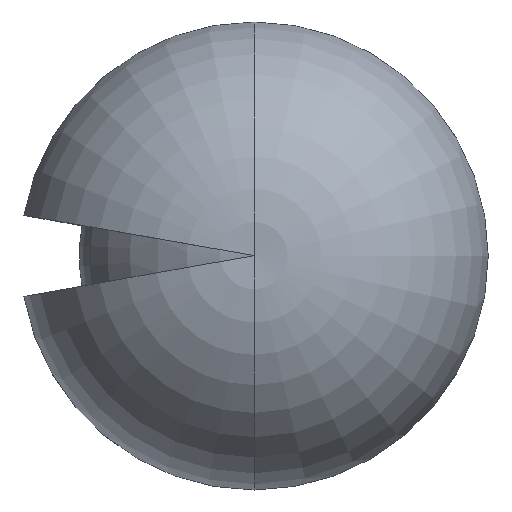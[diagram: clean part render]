
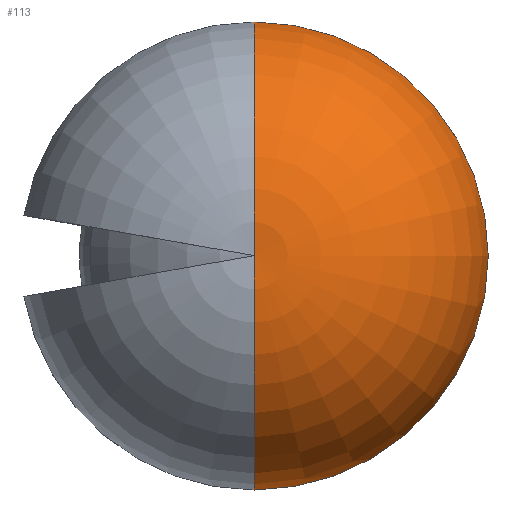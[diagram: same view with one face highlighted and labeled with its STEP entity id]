
A CAD part, top view. The second image highlights one B-rep face of the part: STEP entity #113.
In plain terms, the highlighted toroidal (fillet/blend) face has major radius 320 mm and minor radius 2644.27 mm.
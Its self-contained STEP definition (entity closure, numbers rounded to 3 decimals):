
#20 = DIRECTION ( 'NONE',  ( 0., 1., 0. ) ) ;
#24 = TOROIDAL_SURFACE ( 'NONE', #397, 320., 2644.27 ) ;
#29 = DIRECTION ( 'NONE',  ( 0., 1., 0. ) ) ;
#52 = VERTEX_POINT ( 'NONE', #195 ) ;
#59 = AXIS2_PLACEMENT_3D ( 'NONE', #606, #148, #357 ) ;
#60 = CARTESIAN_POINT ( 'NONE',  ( 0., 0., 3404.836 ) ) ;
#81 = EDGE_CURVE ( 'NONE', #243, #52, #314, .T. ) ;
#98 = CIRCLE ( 'NONE', #265, 2644.27 ) ;
#106 = ORIENTED_EDGE ( 'NONE', *, *, #223, .F. ) ;
#113 = ADVANCED_FACE ( 'NONE', ( #274 ), #24, .T. ) ;
#121 = CARTESIAN_POINT ( 'NONE',  ( 0., -320., 780. ) ) ;
#131 = ORIENTED_EDGE ( 'NONE', *, *, #347, .T. ) ;
#148 = DIRECTION ( 'NONE',  ( -1., 0., 0. ) ) ;
#153 = CARTESIAN_POINT ( 'NONE',  ( 0., 0., 1010.463 ) ) ;
#154 = CIRCLE ( 'NONE', #563, 2954.208 ) ;
#195 = CARTESIAN_POINT ( 'NONE',  ( 0., 2954.208, 1010.463 ) ) ;
#202 = DIRECTION ( 'NONE',  ( 0., 0., -1. ) ) ;
#221 = DIRECTION ( 'NONE',  ( 0., 0., -1. ) ) ;
#223 = EDGE_CURVE ( 'NONE', #52, #280, #154, .T. ) ;
#229 = DIRECTION ( 'NONE',  ( 1., 0., 0. ) ) ;
#243 = VERTEX_POINT ( 'NONE', #60 ) ;
#265 = AXIS2_PLACEMENT_3D ( 'NONE', #121, #229, #29 ) ;
#274 = FACE_OUTER_BOUND ( 'NONE', #587, .T. ) ;
#280 = VERTEX_POINT ( 'NONE', #560 ) ;
#314 = CIRCLE ( 'NONE', #59, 2644.27 ) ;
#347 = EDGE_CURVE ( 'NONE', #243, #280, #98, .T. ) ;
#357 = DIRECTION ( 'NONE',  ( 0., 0., 1. ) ) ;
#376 = ORIENTED_EDGE ( 'NONE', *, *, #81, .F. ) ;
#397 = AXIS2_PLACEMENT_3D ( 'NONE', #626, #221, #20 ) ;
#511 = DIRECTION ( 'NONE',  ( 0., 1., 0. ) ) ;
#560 = CARTESIAN_POINT ( 'NONE',  ( 0., -2954.208, 1010.463 ) ) ;
#563 = AXIS2_PLACEMENT_3D ( 'NONE', #153, #202, #511 ) ;
#587 = EDGE_LOOP ( 'NONE', ( #376, #131, #106 ) ) ;
#606 = CARTESIAN_POINT ( 'NONE',  ( 0., 320., 780. ) ) ;
#626 = CARTESIAN_POINT ( 'NONE',  ( 0., 0., 780. ) ) ;
